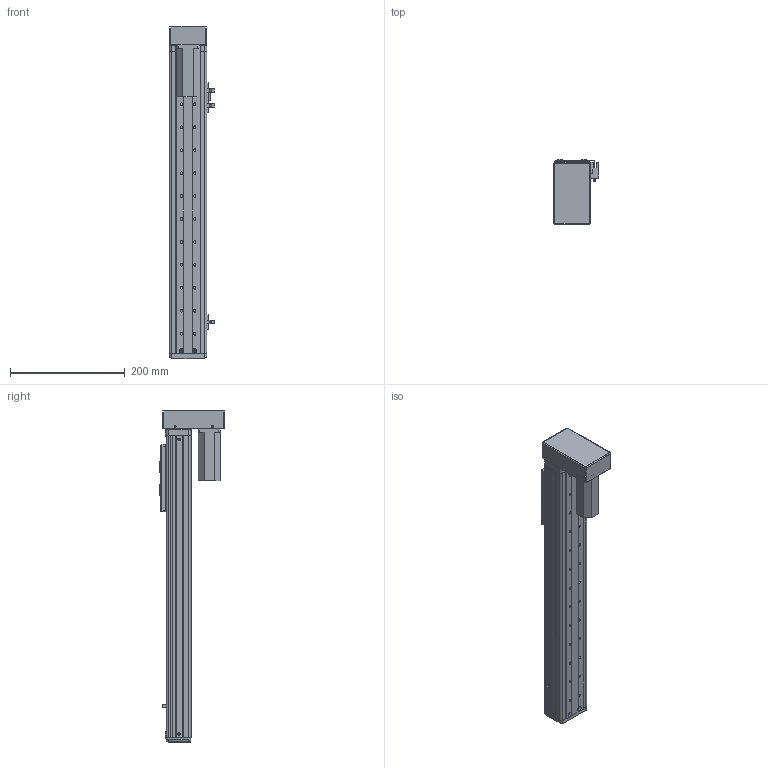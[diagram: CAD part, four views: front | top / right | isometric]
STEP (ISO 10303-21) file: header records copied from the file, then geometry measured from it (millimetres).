
FILE_DESCRIPTION (( 'STEP AP203' ), '1' );
FILE_NAME ('RY60F-L1210-300-BK.SLDASM_350.step', '2021-03-02T06:47:04', ( '盈信电脑' ), ( '东莞市道滘镇水果街19号' ), 'SwSTEP 2.0', 'SolidWorks 2012', '' );
FILE_SCHEMA (( 'CONFIG_CONTROL_DESIGN' ));
Length unit declared in the file: millimetre
Products named in the file (17): RY60F-L1210-300-BK.SLDASM_350; RY60F-转折电机端丝杆安装座; RY60F-狟殏萇儂欶(100W); RY60F-狟殏萇儂假蚾啣(100W PCD45 M3); 侂狟100W; RY50F-300-MR15W蛌殏絳寢-BK_350; 俋噤12酗38滅袉蝶; 俋噤12酗29滅袉蝶; RY60F-300-蛌殏滅鳥詩え-BK_350; RY50-60詩湍揤啣; RY60F-L1210-300-BK蛌殏俋褲_350; RY60F-祥凄詩滅鳥裔; 覜茼ん672; RY60F-嫖萇羲壽結え; RY60F-滅鳥詩え盓殤; RY60F-浮动端丝杆支撑座; RY60F-臏賑輸
Assembly tree (20 placements, depth 2):
  RY60F-L1210-300-BK.SLDASM_350
    RY60F-臏賑輸
    RY60F-浮动端丝杆支撑座
    RY60F-滅鳥詩え盓殤
    RY60F-嫖萇羲壽結え
    RY50-60詩湍揤啣  x2
    RY60F-祥凄詩滅鳥裔
    RY60F-L1210-300-BK蛌殏俋褲_350  x2
    覜茼ん672  x3
    RY60F-300-蛌殏滅鳥詩え-BK_350
    RY50F-300-MR15W蛌殏絳寢-BK_350
    俋噤12酗29滅袉蝶
    俋噤12酗38滅袉蝶
    侂狟100W
    RY60F-转折电机端丝杆安装座
    RY60F-狟殏萇儂假蚾啣(100W PCD45 M3)
    RY60F-狟殏萇儂欶(100W)
Bounding box: 78.7 x 114 x 578 mm (x, y, z)
Volume: 639383.4 mm3; surface area: 424474.2 mm2
Topology: 20 solids, 21 shells, 1053 faces, 2866 edges, 1815 vertices
Faces by surface type: cylinder 478, plane 463, cone 94, bspline 18
Entity records: 32118 total; most frequent: CARTESIAN_POINT 6218, DIRECTION 5097, ORIENTED_EDGE 4896, EDGE_CURVE 2448, AXIS2_PLACEMENT_3D 1814, VERTEX_POINT 1591, LINE 1469, VECTOR 1469
